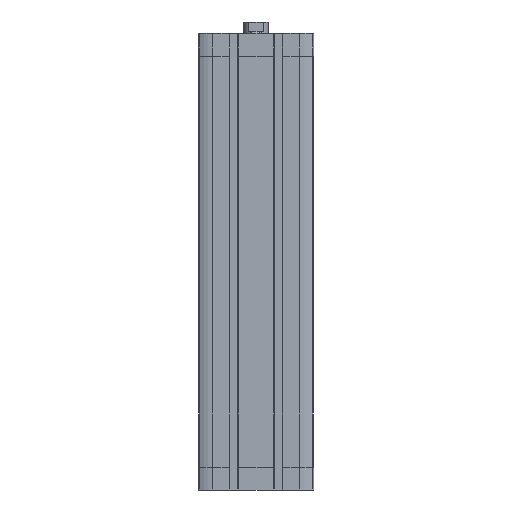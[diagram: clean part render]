
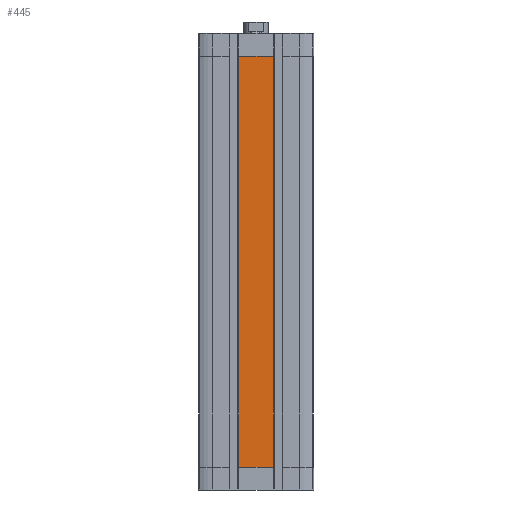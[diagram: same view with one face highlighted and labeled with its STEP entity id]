
A CAD part, front view. The second image highlights one B-rep face of the part: STEP entity #445.
In plain terms, the highlighted planar face has unit normal (0, -1, 0).
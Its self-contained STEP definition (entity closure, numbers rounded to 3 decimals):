
#125 = DIRECTION ( 'NONE',  ( 0., 0., 1. ) ) ;
#238 = LINE ( 'NONE', #3029, #3074 ) ;
#268 = CARTESIAN_POINT ( 'NONE',  ( 11.4, -37.5, -284. ) ) ;
#445 = ADVANCED_FACE ( 'NONE', ( #15195 ), #7950, .T. ) ;
#1805 = DIRECTION ( 'NONE',  ( 0., 0., -1. ) ) ;
#2560 = AXIS2_PLACEMENT_3D ( 'NONE', #6832, #13613, #4943 ) ;
#2773 = VECTOR ( 'NONE', #125, 1000. ) ;
#3027 = VERTEX_POINT ( 'NONE', #4399 ) ;
#3029 = CARTESIAN_POINT ( 'NONE',  ( -11.4, -37.5, -284. ) ) ;
#3074 = VECTOR ( 'NONE', #1805, 1000. ) ;
#3175 = LINE ( 'NONE', #3712, #6023 ) ;
#3463 = CARTESIAN_POINT ( 'NONE',  ( 11.4, -37.5, -15. ) ) ;
#3712 = CARTESIAN_POINT ( 'NONE',  ( -11.4, -37.5, -284. ) ) ;
#4072 = CARTESIAN_POINT ( 'NONE',  ( -11.4, -37.5, -284. ) ) ;
#4174 = VERTEX_POINT ( 'NONE', #3463 ) ;
#4317 = EDGE_CURVE ( 'NONE', #3027, #4174, #5988, .T. ) ;
#4399 = CARTESIAN_POINT ( 'NONE',  ( 11.4, -37.5, -284. ) ) ;
#4943 = DIRECTION ( 'NONE',  ( 0., 0., -1. ) ) ;
#5988 = LINE ( 'NONE', #268, #2773 ) ;
#6023 = VECTOR ( 'NONE', #14262, 1000. ) ;
#6832 = CARTESIAN_POINT ( 'NONE',  ( -11.4, -37.5, -284. ) ) ;
#7078 = VECTOR ( 'NONE', #14024, 1000. ) ;
#7950 = PLANE ( 'NONE',  #2560 ) ;
#8753 = ORIENTED_EDGE ( 'NONE', *, *, #9904, .T. ) ;
#9217 = CARTESIAN_POINT ( 'NONE',  ( -11.4, -37.5, -15. ) ) ;
#9457 = VERTEX_POINT ( 'NONE', #9217 ) ;
#9904 = EDGE_CURVE ( 'NONE', #9457, #13195, #238, .T. ) ;
#11693 = ORIENTED_EDGE ( 'NONE', *, *, #4317, .T. ) ;
#11711 = ORIENTED_EDGE ( 'NONE', *, *, #12959, .T. ) ;
#12227 = LINE ( 'NONE', #15188, #7078 ) ;
#12279 = ORIENTED_EDGE ( 'NONE', *, *, #14519, .T. ) ;
#12959 = EDGE_CURVE ( 'NONE', #13195, #3027, #3175, .T. ) ;
#13195 = VERTEX_POINT ( 'NONE', #4072 ) ;
#13390 = EDGE_LOOP ( 'NONE', ( #11711, #11693, #12279, #8753 ) ) ;
#13613 = DIRECTION ( 'NONE',  ( 0., -1., 0. ) ) ;
#14024 = DIRECTION ( 'NONE',  ( -1., 0., 0. ) ) ;
#14262 = DIRECTION ( 'NONE',  ( 1., 0., 0. ) ) ;
#14519 = EDGE_CURVE ( 'NONE', #4174, #9457, #12227, .T. ) ;
#15188 = CARTESIAN_POINT ( 'NONE',  ( 0., -37.5, -15. ) ) ;
#15195 = FACE_OUTER_BOUND ( 'NONE', #13390, .T. ) ;
